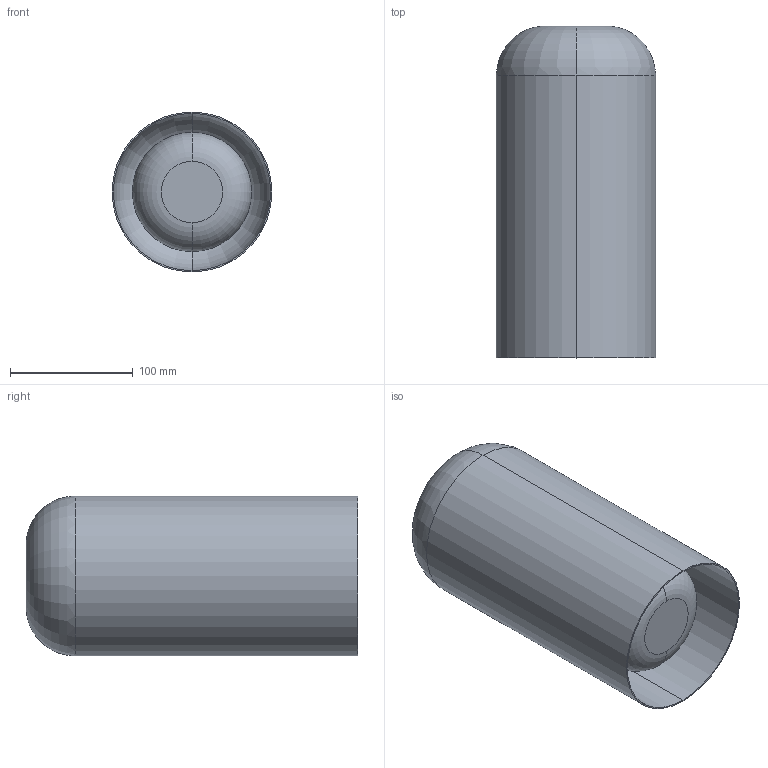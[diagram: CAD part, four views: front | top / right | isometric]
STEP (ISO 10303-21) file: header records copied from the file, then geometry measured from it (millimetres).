
FILE_DESCRIPTION (( 'STEP AP203' ), '1' );
FILE_NAME ('Tall_Vase.STEP', '2022-07-14T23:38:45', ( '' ), ( '' ), 'SwSTEP 2.0', 'SolidWorks 2018', '' );
FILE_SCHEMA (( 'CONFIG_CONTROL_DESIGN' ));
Length unit declared in the file: millimetre
Products named in the file (1): Tall_Vase
Bounding box: 130 x 269.94 x 130 mm (x, y, z)
Volume: 195918.6 mm3; surface area: 392244.5 mm2
Topology: 1 solids, 1 shells, 75 faces, 148 edges, 76 vertices
Faces by surface type: torus 52, cylinder 20, plane 3
Entity records: 2003 total; most frequent: DIRECTION 428, CARTESIAN_POINT 300, ORIENTED_EDGE 296, AXIS2_PLACEMENT_3D 204, EDGE_CURVE 148, CIRCLE 128, EDGE_LOOP 76, VERTEX_POINT 76
